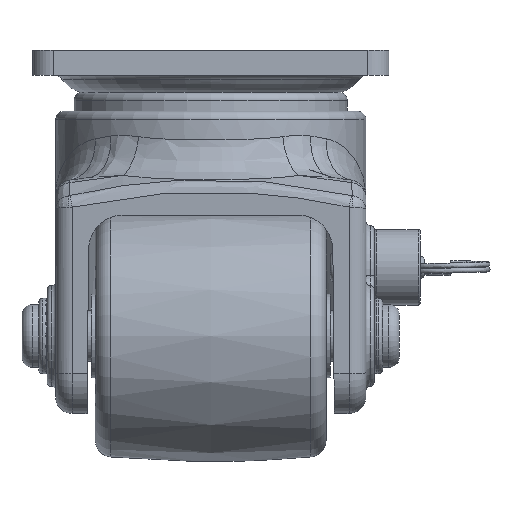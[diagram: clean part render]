
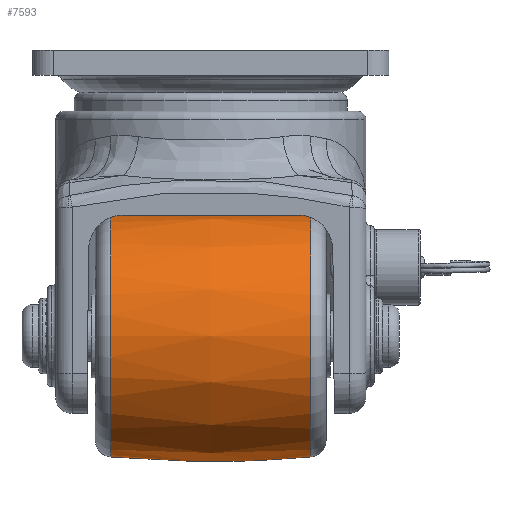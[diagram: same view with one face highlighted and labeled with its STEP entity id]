
A CAD part, left-side view. The second image highlights one B-rep face of the part: STEP entity #7593.
In plain terms, the highlighted free-form (B-spline) face has degree [2, 2] with [3, 9] control points.
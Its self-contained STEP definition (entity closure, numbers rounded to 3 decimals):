
#15=(
BOUNDED_CURVE()
B_SPLINE_CURVE(2,(#24034,#24035,#24036),.UNSPECIFIED.,.F.,.F.)
B_SPLINE_CURVE_WITH_KNOTS((3,3),(-0.096,0.096),
 .UNSPECIFIED.)
CURVE()
GEOMETRIC_REPRESENTATION_ITEM()
RATIONAL_B_SPLINE_CURVE((1.,0.995,1.))
REPRESENTATION_ITEM('')
);
#41=(
BOUNDED_SURFACE()
B_SPLINE_SURFACE(2,2,((#24006,#24007,#24008,#24009,#24010,#24011,#24012,
#24013,#24014),(#24015,#24016,#24017,#24018,#24019,#24020,#24021,#24022,
#24023),(#24024,#24025,#24026,#24027,#24028,#24029,#24030,#24031,#24032)),
 .UNSPECIFIED.,.F.,.T.,.F.)
B_SPLINE_SURFACE_WITH_KNOTS((3,3),(3,2,2,2,3),(-0.096,0.096),
(-3.142,-1.571,0.,1.571,3.142),
 .UNSPECIFIED.)
GEOMETRIC_REPRESENTATION_ITEM()
RATIONAL_B_SPLINE_SURFACE(((1.,0.707,1.,0.707,1.,
0.707,1.,0.707,1.),(0.995,0.704,
0.995,0.704,0.995,0.704,
0.995,0.704,0.995),(1.,0.707,
1.,0.707,1.,0.707,1.,0.707,1.)))
REPRESENTATION_ITEM('')
SURFACE()
);
#583=CIRCLE('',#8338,28.857);
#584=CIRCLE('',#8339,28.857);
#585=CIRCLE('',#8340,28.857);
#586=CIRCLE('',#8341,28.857);
#1607=FACE_OUTER_BOUND('',#2201,.T.);
#2201=EDGE_LOOP('',(#6903,#6904,#6905,#6906,#6907,#6908));
#3712=VERTEX_POINT('',#24002);
#3713=VERTEX_POINT('',#24003);
#3714=VERTEX_POINT('',#24033);
#3715=VERTEX_POINT('',#24037);
#4789=EDGE_CURVE('',#3712,#3713,#583,.T.);
#4790=EDGE_CURVE('',#3713,#3712,#584,.T.);
#4791=EDGE_CURVE('',#3713,#3714,#15,.T.);
#4792=EDGE_CURVE('',#3715,#3714,#585,.T.);
#4793=EDGE_CURVE('',#3714,#3715,#586,.T.);
#6903=ORIENTED_EDGE('',*,*,#4789,.T.);
#6904=ORIENTED_EDGE('',*,*,#4791,.T.);
#6905=ORIENTED_EDGE('',*,*,#4792,.F.);
#6906=ORIENTED_EDGE('',*,*,#4793,.F.);
#6907=ORIENTED_EDGE('',*,*,#4791,.F.);
#6908=ORIENTED_EDGE('',*,*,#4790,.T.);
#7593=ADVANCED_FACE('',(#1607),#41,.F.);
#8338=AXIS2_PLACEMENT_3D('',#24004,#10192,#10193);
#8339=AXIS2_PLACEMENT_3D('',#24005,#10194,#10195);
#8340=AXIS2_PLACEMENT_3D('',#24038,#10196,#10197);
#8341=AXIS2_PLACEMENT_3D('',#24039,#10198,#10199);
#10192=DIRECTION('center_axis',(0.,-1.,0.));
#10193=DIRECTION('ref_axis',(1.,0.,0.));
#10194=DIRECTION('center_axis',(0.,-1.,0.));
#10195=DIRECTION('ref_axis',(1.,0.,0.));
#10196=DIRECTION('center_axis',(0.,-1.,0.));
#10197=DIRECTION('ref_axis',(1.,0.,0.));
#10198=DIRECTION('center_axis',(0.,-1.,0.));
#10199=DIRECTION('ref_axis',(1.,0.,0.));
#24002=CARTESIAN_POINT('',(100.326,143.221,-17.05));
#24003=CARTESIAN_POINT('',(71.47,143.221,-45.907));
#24004=CARTESIAN_POINT('Origin',(71.47,143.221,-17.05));
#24005=CARTESIAN_POINT('Origin',(71.47,143.221,-17.05));
#24006=CARTESIAN_POINT('Ctrl Pts',(71.47,95.456,-45.907));
#24007=CARTESIAN_POINT('Ctrl Pts',(42.613,95.456,-45.907));
#24008=CARTESIAN_POINT('Ctrl Pts',(42.613,95.456,-17.05));
#24009=CARTESIAN_POINT('Ctrl Pts',(42.613,95.456,11.807));
#24010=CARTESIAN_POINT('Ctrl Pts',(71.47,95.456,11.807));
#24011=CARTESIAN_POINT('Ctrl Pts',(100.326,95.456,11.807));
#24012=CARTESIAN_POINT('Ctrl Pts',(100.326,95.456,-17.05));
#24013=CARTESIAN_POINT('Ctrl Pts',(100.326,95.456,-45.907));
#24014=CARTESIAN_POINT('Ctrl Pts',(71.47,95.456,-45.907));
#24015=CARTESIAN_POINT('Ctrl Pts',(71.47,119.339,-48.199));
#24016=CARTESIAN_POINT('Ctrl Pts',(40.321,119.339,-48.199));
#24017=CARTESIAN_POINT('Ctrl Pts',(40.321,119.339,-17.05));
#24018=CARTESIAN_POINT('Ctrl Pts',(40.321,119.339,14.099));
#24019=CARTESIAN_POINT('Ctrl Pts',(71.47,119.339,14.099));
#24020=CARTESIAN_POINT('Ctrl Pts',(102.618,119.339,14.099));
#24021=CARTESIAN_POINT('Ctrl Pts',(102.618,119.339,-17.05));
#24022=CARTESIAN_POINT('Ctrl Pts',(102.618,119.339,-48.199));
#24023=CARTESIAN_POINT('Ctrl Pts',(71.47,119.339,-48.199));
#24024=CARTESIAN_POINT('Ctrl Pts',(71.47,143.221,-45.907));
#24025=CARTESIAN_POINT('Ctrl Pts',(42.613,143.221,-45.907));
#24026=CARTESIAN_POINT('Ctrl Pts',(42.613,143.221,-17.05));
#24027=CARTESIAN_POINT('Ctrl Pts',(42.613,143.221,11.807));
#24028=CARTESIAN_POINT('Ctrl Pts',(71.47,143.221,11.807));
#24029=CARTESIAN_POINT('Ctrl Pts',(100.326,143.221,11.807));
#24030=CARTESIAN_POINT('Ctrl Pts',(100.326,143.221,-17.05));
#24031=CARTESIAN_POINT('Ctrl Pts',(100.326,143.221,-45.907));
#24032=CARTESIAN_POINT('Ctrl Pts',(71.47,143.221,-45.907));
#24033=CARTESIAN_POINT('',(71.47,95.456,-45.907));
#24034=CARTESIAN_POINT('Ctrl Pts',(71.47,143.221,-45.907));
#24035=CARTESIAN_POINT('Ctrl Pts',(71.47,119.339,-48.199));
#24036=CARTESIAN_POINT('Ctrl Pts',(71.47,95.456,-45.907));
#24037=CARTESIAN_POINT('',(100.326,95.456,-17.05));
#24038=CARTESIAN_POINT('Origin',(71.47,95.456,-17.05));
#24039=CARTESIAN_POINT('Origin',(71.47,95.456,-17.05));
